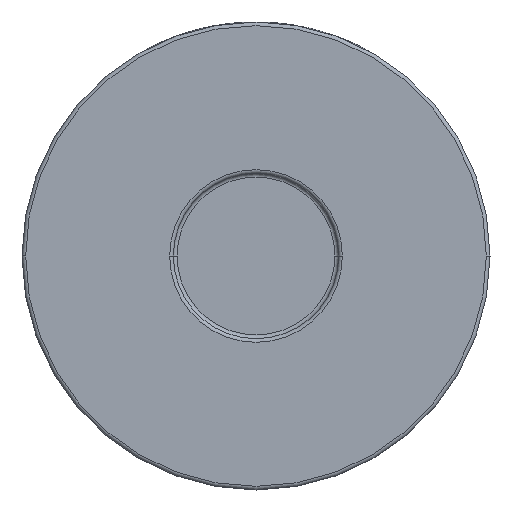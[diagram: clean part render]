
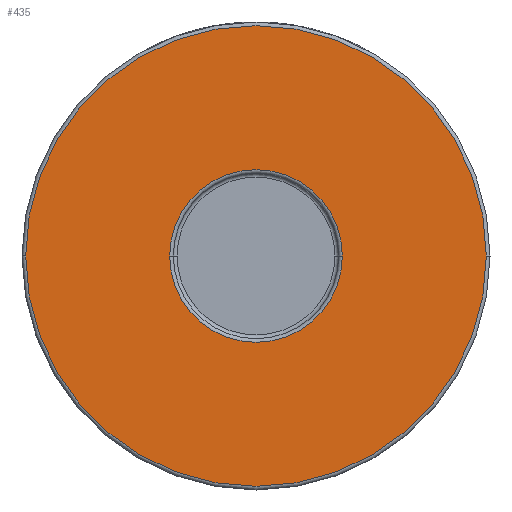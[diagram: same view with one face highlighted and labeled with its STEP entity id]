
A CAD part, front view. The second image highlights one B-rep face of the part: STEP entity #435.
In plain terms, the highlighted planar face has unit normal (0, -1, 0).
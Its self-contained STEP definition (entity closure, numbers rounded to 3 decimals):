
#93 = CARTESIAN_POINT ( 'NONE',  ( 0., -45., 0. ) ) ;
#227 = FACE_OUTER_BOUND ( 'NONE', #4294, .T. ) ;
#306 = CARTESIAN_POINT ( 'NONE',  ( -63., -45., 0. ) ) ;
#435 = ADVANCED_FACE ( 'NONE', ( #565, #227 ), #908, .T. ) ;
#565 = FACE_BOUND ( 'NONE', #3013, .T. ) ;
#645 = EDGE_CURVE ( 'NONE', #1825, #3151, #830, .T. ) ;
#709 = CIRCLE ( 'NONE', #3270, 63. ) ;
#775 = CARTESIAN_POINT ( 'NONE',  ( 23.6, -45., 0. ) ) ;
#830 = CIRCLE ( 'NONE', #4778, 63. ) ;
#863 = VERTEX_POINT ( 'NONE', #775 ) ;
#908 = PLANE ( 'NONE',  #2470 ) ;
#925 = ORIENTED_EDGE ( 'NONE', *, *, #2776, .T. ) ;
#1013 = CIRCLE ( 'NONE', #3479, 23.6 ) ;
#1094 = DIRECTION ( 'NONE',  ( 1., 0., 0. ) ) ;
#1109 = CARTESIAN_POINT ( 'NONE',  ( 63., -45., 0. ) ) ;
#1193 = CARTESIAN_POINT ( 'NONE',  ( 0., -45., 0. ) ) ;
#1211 = CARTESIAN_POINT ( 'NONE',  ( -23.6, -45., 0. ) ) ;
#1274 = CARTESIAN_POINT ( 'NONE',  ( 64., -45., 0. ) ) ;
#1464 = EDGE_CURVE ( 'NONE', #3151, #1825, #709, .T. ) ;
#1655 = DIRECTION ( 'NONE',  ( 0., 1., 0. ) ) ;
#1719 = DIRECTION ( 'NONE',  ( 0., -1., 0. ) ) ;
#1730 = DIRECTION ( 'NONE',  ( 1., 0., 0. ) ) ;
#1825 = VERTEX_POINT ( 'NONE', #1109 ) ;
#1936 = CIRCLE ( 'NONE', #4560, 23.6 ) ;
#2046 = ORIENTED_EDGE ( 'NONE', *, *, #1464, .T. ) ;
#2156 = EDGE_CURVE ( 'NONE', #3910, #863, #1013, .T. ) ;
#2470 = AXIS2_PLACEMENT_3D ( 'NONE', #1274, #1719, #3193 ) ;
#2506 = CARTESIAN_POINT ( 'NONE',  ( 0., -45., 0. ) ) ;
#2734 = ORIENTED_EDGE ( 'NONE', *, *, #2156, .T. ) ;
#2776 = EDGE_CURVE ( 'NONE', #863, #3910, #1936, .T. ) ;
#3013 = EDGE_LOOP ( 'NONE', ( #925, #2734 ) ) ;
#3082 = DIRECTION ( 'NONE',  ( 0., -1., 0. ) ) ;
#3142 = ORIENTED_EDGE ( 'NONE', *, *, #645, .T. ) ;
#3151 = VERTEX_POINT ( 'NONE', #306 ) ;
#3193 = DIRECTION ( 'NONE',  ( 1., 0., 0. ) ) ;
#3270 = AXIS2_PLACEMENT_3D ( 'NONE', #93, #3703, #1094 ) ;
#3318 = DIRECTION ( 'NONE',  ( 1., 0., 0. ) ) ;
#3364 = DIRECTION ( 'NONE',  ( 0., 1., 0. ) ) ;
#3479 = AXIS2_PLACEMENT_3D ( 'NONE', #2506, #3364, #3318 ) ;
#3490 = CARTESIAN_POINT ( 'NONE',  ( 0., -45., 0. ) ) ;
#3703 = DIRECTION ( 'NONE',  ( 0., -1., 0. ) ) ;
#3738 = DIRECTION ( 'NONE',  ( 1., 0., 0. ) ) ;
#3910 = VERTEX_POINT ( 'NONE', #1211 ) ;
#4294 = EDGE_LOOP ( 'NONE', ( #3142, #2046 ) ) ;
#4560 = AXIS2_PLACEMENT_3D ( 'NONE', #3490, #1655, #1730 ) ;
#4778 = AXIS2_PLACEMENT_3D ( 'NONE', #1193, #3082, #3738 ) ;
